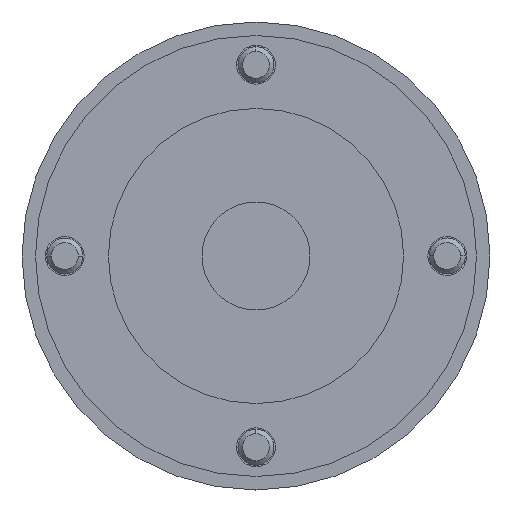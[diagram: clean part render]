
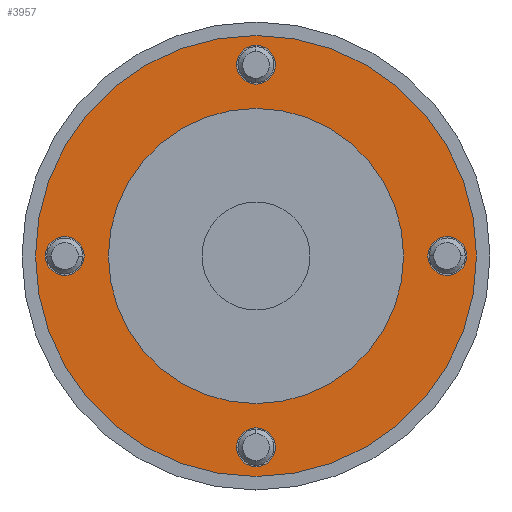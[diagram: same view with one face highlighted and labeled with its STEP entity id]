
A CAD part, left-side view. The second image highlights one B-rep face of the part: STEP entity #3957.
In plain terms, the highlighted planar face has unit normal (-1, 0, 0).
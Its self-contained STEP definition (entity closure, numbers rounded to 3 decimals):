
#829 = CIRCLE ( 'NONE', #874, 2.15 ) ;
#871 = DIRECTION ( 'NONE',  ( 0., 0., -1. ) ) ;
#872 = DIRECTION ( 'NONE',  ( 1., 0., 0. ) ) ;
#873 = CARTESIAN_POINT ( 'NONE',  ( 2., -21.25, 0. ) ) ;
#874 = AXIS2_PLACEMENT_3D ( 'NONE', #873, #872, #871 ) ;
#876 = CARTESIAN_POINT ( 'NONE',  ( 2., 21.25, 2.15 ) ) ;
#995 = CARTESIAN_POINT ( 'NONE',  ( 2., 21.25, -2.15 ) ) ;
#1232 = CARTESIAN_POINT ( 'NONE',  ( 2., 0., 19.1 ) ) ;
#1262 = CIRCLE ( 'NONE', #1326, 2.15 ) ;
#1263 = CARTESIAN_POINT ( 'NONE',  ( 2., -21.25, -2.15 ) ) ;
#1296 = CARTESIAN_POINT ( 'NONE',  ( 2., -21.25, 2.15 ) ) ;
#1301 = DIRECTION ( 'NONE',  ( 0., 0., -1. ) ) ;
#1302 = DIRECTION ( 'NONE',  ( 1., 0., 0. ) ) ;
#1306 = CIRCLE ( 'NONE', #1311, 2.15 ) ;
#1310 = CARTESIAN_POINT ( 'NONE',  ( 2., 0., -23.4 ) ) ;
#1311 = AXIS2_PLACEMENT_3D ( 'NONE', #1314, #1302, #1301 ) ;
#1313 = DIRECTION ( 'NONE',  ( 0., 0., -1. ) ) ;
#1314 = CARTESIAN_POINT ( 'NONE',  ( 2., 0., -21.25 ) ) ;
#1319 = CARTESIAN_POINT ( 'NONE',  ( 2., 21.25, 0. ) ) ;
#1326 = AXIS2_PLACEMENT_3D ( 'NONE', #1319, #1330, #1313 ) ;
#1330 = DIRECTION ( 'NONE',  ( 1., 0., 0. ) ) ;
#1337 = CARTESIAN_POINT ( 'NONE',  ( 2., 0., -19.1 ) ) ;
#1622 = DIRECTION ( 'NONE',  ( 0., 0., 1. ) ) ;
#1623 = DIRECTION ( 'NONE',  ( -1., 0., 0. ) ) ;
#1625 = AXIS2_PLACEMENT_3D ( 'NONE', #1629, #1623, #1622 ) ;
#1629 = CARTESIAN_POINT ( 'NONE',  ( 2., 0., 0. ) ) ;
#1647 = CIRCLE ( 'NONE', #1625, 24.5 ) ;
#1651 = DIRECTION ( 'NONE',  ( 0., 0., -1. ) ) ;
#1652 = DIRECTION ( 'NONE',  ( 1., 0., 0. ) ) ;
#1653 = CARTESIAN_POINT ( 'NONE',  ( 2., 0., -21.25 ) ) ;
#1660 = CIRCLE ( 'NONE', #1672, 2.15 ) ;
#1672 = AXIS2_PLACEMENT_3D ( 'NONE', #1653, #1652, #1651 ) ;
#1759 = CARTESIAN_POINT ( 'NONE',  ( 2., 0., 23.4 ) ) ;
#1760 = DIRECTION ( 'NONE',  ( 0., 0., -1. ) ) ;
#1761 = DIRECTION ( 'NONE',  ( 1., 0., 0. ) ) ;
#1768 = CARTESIAN_POINT ( 'NONE',  ( 2., 0., 21.25 ) ) ;
#1773 = AXIS2_PLACEMENT_3D ( 'NONE', #1768, #1761, #1760 ) ;
#1789 = CIRCLE ( 'NONE', #1773, 2.15 ) ;
#1870 = CARTESIAN_POINT ( 'NONE',  ( 2., 0., 0. ) ) ;
#1874 = AXIS2_PLACEMENT_3D ( 'NONE', #1870, #1918, #1917 ) ;
#1884 = CIRCLE ( 'NONE', #1874, 24.5 ) ;
#1917 = DIRECTION ( 'NONE',  ( 0., 0., 1. ) ) ;
#1918 = DIRECTION ( 'NONE',  ( -1., 0., 0. ) ) ;
#1929 = CARTESIAN_POINT ( 'NONE',  ( 2., 0., 24.5 ) ) ;
#2146 = DIRECTION ( 'NONE',  ( 0., 0., 1. ) ) ;
#2147 = DIRECTION ( 'NONE',  ( -1., 0., 0. ) ) ;
#2148 = AXIS2_PLACEMENT_3D ( 'NONE', #2166, #2147, #2146 ) ;
#2156 = CARTESIAN_POINT ( 'NONE',  ( 2., 0., 16.4 ) ) ;
#2166 = CARTESIAN_POINT ( 'NONE',  ( 2., 0., 0. ) ) ;
#2172 = CARTESIAN_POINT ( 'NONE',  ( 2., 0., -16.4 ) ) ;
#2180 = CIRCLE ( 'NONE', #2148, 16.4 ) ;
#3039 = EDGE_CURVE ( 'NONE', #3240, #3230, #829, .T. ) ;
#3043 = VERTEX_POINT ( 'NONE', #876 ) ;
#3070 = EDGE_LOOP ( 'NONE', ( #3731, #3736 ) ) ;
#3185 = VERTEX_POINT ( 'NONE', #995 ) ;
#3209 = VERTEX_POINT ( 'NONE', #1337 ) ;
#3229 = EDGE_CURVE ( 'NONE', #3043, #3185, #1262, .T. ) ;
#3230 = VERTEX_POINT ( 'NONE', #1263 ) ;
#3233 = VERTEX_POINT ( 'NONE', #1310 ) ;
#3235 = EDGE_CURVE ( 'NONE', #3209, #3233, #1306, .T. ) ;
#3240 = VERTEX_POINT ( 'NONE', #1296 ) ;
#3264 = VERTEX_POINT ( 'NONE', #1232 ) ;
#3392 = EDGE_CURVE ( 'NONE', #3398, #3264, #1789, .T. ) ;
#3398 = VERTEX_POINT ( 'NONE', #1759 ) ;
#3440 = EDGE_CURVE ( 'NONE', #3233, #3209, #1660, .T. ) ;
#3458 = EDGE_CURVE ( 'NONE', #3540, #3672, #1647, .T. ) ;
#3539 = EDGE_CURVE ( 'NONE', #3672, #3540, #1884, .T. ) ;
#3540 = VERTEX_POINT ( 'NONE', #1929 ) ;
#3585 = VERTEX_POINT ( 'NONE', #2172 ) ;
#3589 = VERTEX_POINT ( 'NONE', #2156 ) ;
#3590 = EDGE_CURVE ( 'NONE', #3585, #3589, #2180, .T. ) ;
#3672 = VERTEX_POINT ( 'NONE', #5716 ) ;
#3731 = ORIENTED_EDGE ( 'NONE', *, *, #3733, .T. ) ;
#3732 = ORIENTED_EDGE ( 'NONE', *, *, #3955, .F. ) ;
#3733 = EDGE_CURVE ( 'NONE', #3230, #3240, #4994, .T. ) ;
#3734 = EDGE_LOOP ( 'NONE', ( #3732, #4060 ) ) ;
#3736 = ORIENTED_EDGE ( 'NONE', *, *, #3039, .T. ) ;
#3931 = EDGE_CURVE ( 'NONE', #3185, #3043, #5409, .T. ) ;
#3938 = ORIENTED_EDGE ( 'NONE', *, *, #3235, .T. ) ;
#3955 = EDGE_CURVE ( 'NONE', #3589, #3585, #5344, .T. ) ;
#3956 = EDGE_LOOP ( 'NONE', ( #3981, #3938 ) ) ;
#3957 = ADVANCED_FACE ( 'NONE', ( #5323, #5337, #5327, #5330, #5329, #5322 ), #5192, .F. ) ;
#3958 = ORIENTED_EDGE ( 'NONE', *, *, #3931, .T. ) ;
#3959 = ORIENTED_EDGE ( 'NONE', *, *, #3229, .T. ) ;
#3981 = ORIENTED_EDGE ( 'NONE', *, *, #3440, .T. ) ;
#3982 = EDGE_LOOP ( 'NONE', ( #3958, #3959 ) ) ;
#4055 = EDGE_CURVE ( 'NONE', #3264, #3398, #5588, .T. ) ;
#4057 = EDGE_LOOP ( 'NONE', ( #4059, #4058 ) ) ;
#4058 = ORIENTED_EDGE ( 'NONE', *, *, #3392, .T. ) ;
#4059 = ORIENTED_EDGE ( 'NONE', *, *, #4055, .T. ) ;
#4060 = ORIENTED_EDGE ( 'NONE', *, *, #3590, .F. ) ;
#4061 = ORIENTED_EDGE ( 'NONE', *, *, #3539, .T. ) ;
#4062 = ORIENTED_EDGE ( 'NONE', *, *, #3458, .T. ) ;
#4064 = EDGE_LOOP ( 'NONE', ( #4062, #4061 ) ) ;
#4963 = DIRECTION ( 'NONE',  ( 0., 0., -1. ) ) ;
#4987 = DIRECTION ( 'NONE',  ( 0., 0., -1. ) ) ;
#4988 = DIRECTION ( 'NONE',  ( 1., 0., 0. ) ) ;
#4989 = CARTESIAN_POINT ( 'NONE',  ( 2., -21.25, 0. ) ) ;
#4990 = AXIS2_PLACEMENT_3D ( 'NONE', #4989, #4988, #4987 ) ;
#4994 = CIRCLE ( 'NONE', #4990, 2.15 ) ;
#5185 = CARTESIAN_POINT ( 'NONE',  ( 2., 24.5, 0. ) ) ;
#5191 = DIRECTION ( 'NONE',  ( 1., 0., 0. ) ) ;
#5192 = PLANE ( 'NONE',  #5204 ) ;
#5204 = AXIS2_PLACEMENT_3D ( 'NONE', #5185, #5191, #4963 ) ;
#5322 = FACE_OUTER_BOUND ( 'NONE', #4064, .T. ) ;
#5323 = FACE_BOUND ( 'NONE', #3982, .T. ) ;
#5324 = DIRECTION ( 'NONE',  ( 0., 0., 1. ) ) ;
#5325 = DIRECTION ( 'NONE',  ( -1., 0., 0. ) ) ;
#5327 = FACE_BOUND ( 'NONE', #3070, .T. ) ;
#5329 = FACE_BOUND ( 'NONE', #3734, .T. ) ;
#5330 = FACE_BOUND ( 'NONE', #4057, .T. ) ;
#5337 = FACE_BOUND ( 'NONE', #3956, .T. ) ;
#5344 = CIRCLE ( 'NONE', #5396, 16.4 ) ;
#5374 = CARTESIAN_POINT ( 'NONE',  ( 2., 0., 0. ) ) ;
#5396 = AXIS2_PLACEMENT_3D ( 'NONE', #5374, #5325, #5324 ) ;
#5398 = DIRECTION ( 'NONE',  ( 0., 0., -1. ) ) ;
#5399 = DIRECTION ( 'NONE',  ( 1., 0., 0. ) ) ;
#5400 = CARTESIAN_POINT ( 'NONE',  ( 2., 21.25, 0. ) ) ;
#5409 = CIRCLE ( 'NONE', #5414, 2.15 ) ;
#5414 = AXIS2_PLACEMENT_3D ( 'NONE', #5400, #5399, #5398 ) ;
#5580 = DIRECTION ( 'NONE',  ( 0., 0., -1. ) ) ;
#5581 = DIRECTION ( 'NONE',  ( 1., 0., 0. ) ) ;
#5582 = CARTESIAN_POINT ( 'NONE',  ( 2., 0., 21.25 ) ) ;
#5583 = AXIS2_PLACEMENT_3D ( 'NONE', #5582, #5581, #5580 ) ;
#5588 = CIRCLE ( 'NONE', #5583, 2.15 ) ;
#5716 = CARTESIAN_POINT ( 'NONE',  ( 2., 0., -24.5 ) ) ;
